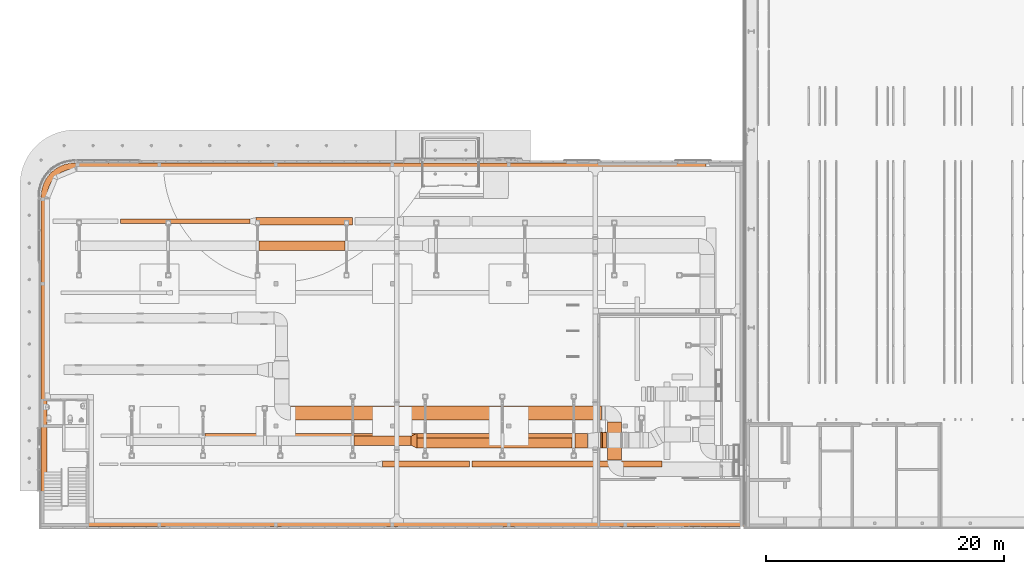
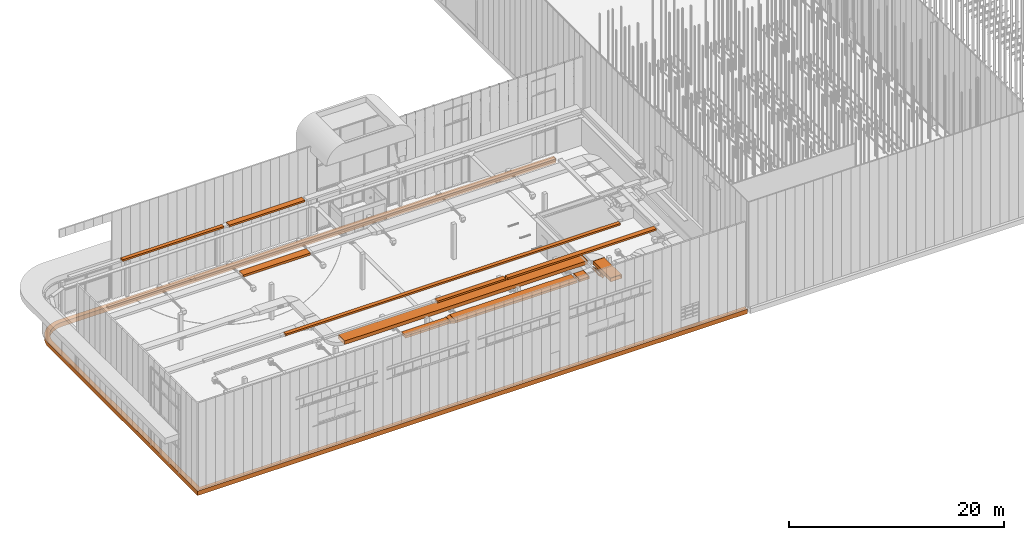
# One storey, part 298 of 302: 14 proxies.
"""IFC2X3 building model written with IfcOpenShell, lengths in metres."""

from ifc_helpers import new_model, entity, si_unit, converted_unit, derived_unit, direction, frame, origin, place, context, subcontext, project, spatial, face_set, faceted_brep, surface_model, type_object, element, save


model = new_model("IFC2X3")

# Units and contexts
model_context = context("Model", 3, precision=1e-05, world=origin(), true_north=direction((6.12303176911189e-17, 1.0)))
body_context = subcontext(model_context, "Body", "Model", "MODEL_VIEW")
ifc_project = project(units=[si_unit("LENGTHUNIT", "METRE"), si_unit("AREAUNIT", "SQUARE_METRE"), si_unit("VOLUMEUNIT", "CUBIC_METRE"), converted_unit("PLANEANGLEUNIT", "DEGREE", entity("IfcRatioMeasure", 0.0174532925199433), si_unit("PLANEANGLEUNIT", "RADIAN"), dimensions=[0, 0, 0, 0, 0, 0, 0]), si_unit("MASSUNIT", "GRAM", prefix="KILO"), derived_unit("MASSDENSITYUNIT", [(si_unit("MASSUNIT", "GRAM", prefix="KILO"), 1), (si_unit("LENGTHUNIT", "METRE"), -3)]), derived_unit("MOMENTOFINERTIAUNIT", [(si_unit("LENGTHUNIT", "METRE"), 4)]), si_unit("TIMEUNIT", "SECOND"), si_unit("FREQUENCYUNIT", "HERTZ"), si_unit("THERMODYNAMICTEMPERATUREUNIT", "DEGREE_CELSIUS"), derived_unit("THERMALTRANSMITTANCEUNIT", [(si_unit("MASSUNIT", "GRAM", prefix="KILO"), 1), (si_unit("THERMODYNAMICTEMPERATUREUNIT", "KELVIN"), -1), (si_unit("TIMEUNIT", "SECOND"), -3)]), derived_unit("VOLUMETRICFLOWRATEUNIT", [(si_unit("LENGTHUNIT", "METRE"), 3), (si_unit("TIMEUNIT", "SECOND"), -1)]), si_unit("ELECTRICCURRENTUNIT", "AMPERE"), si_unit("ELECTRICVOLTAGEUNIT", "VOLT"), si_unit("POWERUNIT", "WATT"), si_unit("FORCEUNIT", "NEWTON", prefix="KILO"), si_unit("ILLUMINANCEUNIT", "LUX"), si_unit("LUMINOUSFLUXUNIT", "LUMEN"), si_unit("LUMINOUSINTENSITYUNIT", "CANDELA"), derived_unit("USERDEFINED", [(si_unit("MASSUNIT", "GRAM", prefix="KILO"), -1), (si_unit("LENGTHUNIT", "METRE"), -2), (si_unit("TIMEUNIT", "SECOND"), 3), (si_unit("LUMINOUSFLUXUNIT", "LUMEN"), 1)]), derived_unit("LINEARVELOCITYUNIT", [(si_unit("LENGTHUNIT", "METRE"), 1), (si_unit("TIMEUNIT", "SECOND"), -1)]), si_unit("PRESSUREUNIT", "PASCAL"), derived_unit("USERDEFINED", [(si_unit("LENGTHUNIT", "METRE"), -2), (si_unit("MASSUNIT", "GRAM", prefix="KILO"), 1), (si_unit("TIMEUNIT", "SECOND"), -2)]), derived_unit("LINEARFORCEUNIT", [(si_unit("MASSUNIT", "GRAM", prefix="KILO"), 1), (si_unit("LENGTHUNIT", "METRE"), 1), (si_unit("TIMEUNIT", "SECOND"), -2), (si_unit("LENGTHUNIT", "METRE"), -1)]), derived_unit("PLANARFORCEUNIT", [(si_unit("MASSUNIT", "GRAM", prefix="KILO"), 1), (si_unit("LENGTHUNIT", "METRE"), 1), (si_unit("TIMEUNIT", "SECOND"), -2), (si_unit("LENGTHUNIT", "METRE"), -2)])], contexts=[model_context])

# Site, building, storey
site_placement = place(None, origin())
site = spatial("IfcSite", under=ifc_project, at=site_placement, Name="Default", CompositionType="ELEMENT")
building_placement = place(site_placement, origin())
building = spatial("IfcBuilding", under=site, at=building_placement, CompositionType="ELEMENT")
storey_placement = place(building_placement, frame((0.0, 0.0, -1.3)))
storey = spatial("IfcBuildingStorey", under=building, at=storey_placement, Name="00_EG", CompositionType="ELEMENT", Elevation=-1.3)

# Proxies
building_element_proxy_type_1 = type_object("IfcBuildingElementProxyType", Name="Plattenkante:Streifenfundament 500x500", PredefinedType="NOTDEFINED")
proxy_1_placement = place(storey_placement, frame((-266.661706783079, 14.998088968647, 0.469999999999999)))
element("IfcBuildingElementProxy", 1, at=proxy_1_placement, inside=storey, type_object=building_element_proxy_type_1, Name="Plattenkante:Streifenfundament 500x500", ObjectType="Plattenkante:Streifenfundament 500x500", context=body_context, shape_type="Brep", body=[
    faceted_brep([(59.0715952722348, 0.0, 0.5), (59.0715952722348, 0.0, 0.0), (59.0715952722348, 0.500000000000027, 0.0), (59.0715952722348, 0.500000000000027, 0.5), (0.501595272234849, 0.500000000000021, 0.0), (0.501595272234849, 0.500000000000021, 0.5), (0.501595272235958, 27.7399999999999, 0.5), (0.507506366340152, 27.9055069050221, 0.5), (0.525209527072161, 28.0701704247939, 0.5), (0.554614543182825, 28.2331514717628, 0.5), (0.595571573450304, 28.393619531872, 0.5), (0.64787191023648, 28.5507568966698, 0.5), (0.711249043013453, 28.7037628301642, 0.5), (0.785380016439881, 28.8518576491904, 0.5), (0.869887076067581, 28.9942866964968, 0.5), (0.964339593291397, 29.1303241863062, 0.5), (1.06825625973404, 29.2592769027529, 0.5), (1.18110753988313, 29.3804877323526, 0.5), (1.30231836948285, 29.4933390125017, 0.5), (1.43127108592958, 29.5972556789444, 0.5), (1.56730857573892, 29.6917081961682, 0.5), (1.70973762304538, 29.7762152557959, 0.5), (1.85783244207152, 29.8503462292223, 0.5), (2.01083837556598, 29.9137233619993, 0.5), (2.16797574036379, 29.9660236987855, 0.5), (2.32844380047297, 30.0069807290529, 0.5), (2.49142484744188, 30.0363857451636, 0.5), (2.65608836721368, 30.0540889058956, 0.5), (2.82159527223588, 30.0599999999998, 0.5), (55.8749660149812, 30.06, 0.5), (55.8749660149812, 30.56, 0.5), (2.82159527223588, 30.5599999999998, 0.5), (2.63715844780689, 30.5539621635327, 0.5), (2.45351141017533, 30.535874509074, 0.5), (2.2714405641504, 30.5058144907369, 0.5), (2.09172556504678, 30.463910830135, 0.5), (1.91513598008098, 30.410342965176, 0.5), (1.74242799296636, 30.3453402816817, 0.5), (1.57434116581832, 30.269181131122, 0.5), (1.41159527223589, 30.182191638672, 0.5), (1.25488721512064, 30.084744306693, 0.5), (1.1048880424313, 29.9772564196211, 0.5), (0.962240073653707, 29.8601882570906, 0.5), (0.82755414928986, 29.7340411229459, 0.5), (0.701407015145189, 29.599355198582, 0.5), (0.584338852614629, 29.4567072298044, 0.5), (0.476850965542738, 29.3067080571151, 0.5), (0.379403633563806, 29.1499999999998, 0.5), (0.292414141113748, 28.9872541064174, 0.5), (0.216254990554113, 28.8191672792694, 0.5), (0.151252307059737, 28.6464592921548, 0.5), (0.097684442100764, 28.469869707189, 0.5), (0.0557807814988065, 28.2901547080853, 0.5), (0.0257207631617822, 28.1080838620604, 0.5), (0.00763310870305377, 27.9244368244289, 0.5), (0.00159527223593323, 27.7399999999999, 0.5), (0.00159527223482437, 0.0, 0.5), (0.501595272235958, 27.7399999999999, 0.0), (2.32844380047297, 30.0069807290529, 0.0), (2.49142484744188, 30.0363857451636, 0.0), (2.65608836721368, 30.0540889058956, 0.0), (2.82159527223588, 30.0599999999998, 0.0), (2.16797574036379, 29.9660236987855, 0.0), (2.01083837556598, 29.9137233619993, 0.0), (1.85783244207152, 29.8503462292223, 0.0), (1.43127108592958, 29.5972556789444, 0.0), (1.56730857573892, 29.6917081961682, 0.0), (1.70973762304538, 29.7762152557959, 0.0), (1.30231836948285, 29.4933390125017, 0.0), (1.18110753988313, 29.3804877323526, 0.0), (0.964339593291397, 29.1303241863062, 0.0), (1.06825625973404, 29.2592769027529, 0.0), (0.711249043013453, 28.7037628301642, 0.0), (0.785380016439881, 28.8518576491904, 0.0), (0.869887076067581, 28.9942866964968, 0.0), (0.554614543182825, 28.2331514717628, 0.0), (0.595571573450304, 28.393619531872, 0.0), (0.64787191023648, 28.5507568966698, 0.0), (0.507506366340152, 27.9055069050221, 0.0), (0.525209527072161, 28.0701704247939, 0.0), (55.8749660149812, 30.06, 0.0), (55.8749660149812, 30.56, 0.0), (0.00159527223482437, 0.0, 0.0), (0.00159527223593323, 27.7399999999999, 0.0), (0.0257207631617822, 28.1080838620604, 0.0), (0.097684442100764, 28.469869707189, 0.0), (0.216254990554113, 28.8191672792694, 0.0), (0.379403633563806, 29.1499999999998, 0.0), (0.584338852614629, 29.4567072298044, 0.0), (0.82755414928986, 29.7340411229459, 0.0), (1.1048880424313, 29.9772564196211, 0.0), (1.41159527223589, 30.182191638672, 0.0), (1.74242799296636, 30.3453402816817, 0.0), (2.09172556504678, 30.463910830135, 0.0), (2.45351141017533, 30.535874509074, 0.0), (2.82159527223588, 30.56, 0.0)], [[[0, 1, 2, 3]], [[4, 5, 3, 2]], [[5, 6, 7, 8, 9, 10, 11, 12, 13, 14, 15, 16, 17, 18, 19, 20, 21, 22, 23, 24, 25, 26, 27, 28, 29, 30, 31, 32, 33, 34, 35, 36, 37, 38, 39, 40, 41, 42, 43, 44, 45, 46, 47, 48, 49, 50, 51, 52, 53, 54, 55, 56, 0, 3]], [[57, 6, 5, 4]], [[58, 59, 26, 25]], [[59, 60, 27, 26]], [[60, 61, 28, 27]], [[62, 58, 25, 24]], [[63, 23, 22, 64]], [[62, 24, 23, 63]], [[65, 66, 20, 19]], [[66, 67, 21, 20]], [[64, 22, 21, 67]], [[68, 65, 19, 18]], [[18, 17, 69, 68]], [[16, 15, 70, 71]], [[13, 12, 72, 73]], [[14, 13, 73, 74]], [[15, 14, 74, 70]], [[10, 9, 75, 76]], [[11, 10, 76, 77]], [[7, 6, 57, 78]], [[8, 7, 78, 79]], [[9, 8, 79, 75]], [[12, 11, 77, 72]], [[17, 16, 71, 69]], [[29, 80, 81, 30]], [[80, 29, 28, 61]], [[81, 80, 61, 60, 59, 58, 62, 63, 64, 67, 66, 65, 68, 69, 71, 70, 74, 73, 72, 77, 76, 75, 79, 78, 57, 4, 2, 1, 82, 83, 84, 85, 86, 87, 88, 89, 90, 91, 92, 93, 94, 95]], [[30, 81, 95, 31]], [[94, 93, 34]], [[33, 94, 34]], [[94, 32, 95]], [[93, 35, 34]], [[36, 93, 92]], [[90, 40, 91]], [[92, 91, 38]], [[42, 90, 89]], [[93, 36, 35]], [[32, 31, 95]], [[36, 92, 37]], [[33, 32, 94]], [[38, 91, 39]], [[91, 40, 39]], [[90, 41, 40]], [[37, 92, 38]], [[41, 90, 42]], [[89, 43, 42]], [[89, 44, 43]], [[44, 89, 88]], [[45, 44, 88]], [[45, 88, 46]], [[46, 88, 87]], [[52, 85, 84]], [[50, 86, 85]], [[48, 87, 86]], [[54, 84, 83]], [[46, 87, 47]], [[48, 47, 87]], [[86, 49, 48]], [[50, 49, 86]], [[85, 51, 50]], [[51, 85, 52]], [[53, 52, 84]], [[54, 53, 84]], [[83, 55, 54]], [[55, 83, 82, 56]], [[56, 82, 1, 0]]]),
])
building_element_proxy_type_2 = type_object("IfcBuildingElementProxyType", Name="Straight:Vorgabe", PredefinedType="NOTDEFINED")
proxy_2_placement = place(storey_placement, frame((-245.696525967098, 23.9320449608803, 4.82460000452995)))
element("IfcBuildingElementProxy", 2, at=proxy_2_placement, inside=storey, type_object=building_element_proxy_type_2, Name="Straight:Vorgabe", ObjectType="Straight:Vorgabe", context=body_context, shape_type="SurfaceModel", body=[
    surface_model("IfcFaceBasedSurfaceModel", [(26.1088517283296, 1.22540005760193, 0.425399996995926), (1.19732375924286e-06, 1.22540005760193, 0.425399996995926), (1.19732375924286e-06, 0.0254000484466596, 0.425399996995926), (26.1088517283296, 0.0254000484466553, 0.425399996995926), (1.19732375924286e-06, 0.0254000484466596, 0.0253999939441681), (26.1088517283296, 0.0254000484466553, 0.0253999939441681), (1.19732375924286e-06, 1.22540005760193, 0.0253999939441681), (26.1088517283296, 1.22540005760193, 0.0253999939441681), (26.1088507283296, 1.25080010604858, 0.0), (26.1088507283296, 1.25080010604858, 0.450799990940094), (26.1088507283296, 0.0, 0.450799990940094), (26.1088507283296, 0.0, 0.0), (1.19732375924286e-06, 0.0, 0.0), (1.19732375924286e-06, 0.0, 0.450799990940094), (1.19732375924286e-06, 1.25080010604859, 0.450799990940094), (1.19732375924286e-06, 1.25080010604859, 0.0)], [face_set([[[0, 1, 2]], [[2, 3, 0]], [[3, 2, 4]], [[4, 5, 3]], [[5, 4, 6]], [[6, 7, 5]], [[7, 6, 1]], [[1, 0, 7]], [[8, 7, 0]], [[0, 9, 8]], [[9, 0, 3]], [[3, 10, 9]], [[10, 3, 5]], [[5, 11, 10]], [[11, 5, 7]], [[7, 8, 11]], [[12, 4, 2]], [[2, 13, 12]], [[13, 2, 1]], [[1, 14, 13]], [[14, 1, 6]], [[6, 15, 14]], [[15, 6, 4]], [[4, 12, 15]]])]),
])
building_element_proxy_type_3 = type_object("IfcBuildingElementProxyType", Name="Straight:Vorgabe", PredefinedType="NOTDEFINED")
proxy_3_placement = place(storey_placement, frame((-219.098074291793, 20.5782242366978, 4.68460000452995)))
element("IfcBuildingElementProxy", 3, at=proxy_3_placement, inside=storey, type_object=building_element_proxy_type_3, Name="Straight:Vorgabe", ObjectType="Straight:Vorgabe", context=body_context, shape_type="SurfaceModel", body=[
    surface_model("IfcFaceBasedSurfaceModel", [(0.0254000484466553, 3.22422077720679, 0.425399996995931), (0.0254000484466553, 1.38168704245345e-07, 0.425399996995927), (1.22540005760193, 1.38168704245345e-07, 0.425399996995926), (1.22540005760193, 3.22422077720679, 0.42539999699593), (1.22540005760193, 1.38168704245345e-07, 0.0253999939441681), (1.22540005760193, 3.22422077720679, 0.0253999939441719), (0.0254000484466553, 1.38168704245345e-07, 0.0253999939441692), (0.0254000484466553, 3.22422077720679, 0.025399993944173), (0.0, 3.22421977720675, 0.0), (0.0, 3.22421977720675, 0.450799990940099), (1.25080010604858, 3.22421977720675, 0.450799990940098), (1.25080010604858, 3.22421977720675, 0.0), (1.25080010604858, 1.01020849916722e-06, 0.0), (1.25080010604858, 1.01020849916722e-06, 0.450799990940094), (0.0, 1.01020849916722e-06, 0.450799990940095), (0.0, 1.01020849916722e-06, 0.0)], [face_set([[[0, 1, 2]], [[2, 3, 0]], [[3, 2, 4]], [[4, 5, 3]], [[5, 4, 6]], [[6, 7, 5]], [[7, 6, 1]], [[1, 0, 7]], [[8, 7, 0]], [[0, 9, 8]], [[9, 0, 3]], [[3, 10, 9]], [[10, 3, 5]], [[5, 11, 10]], [[11, 5, 7]], [[7, 8, 11]], [[12, 4, 2]], [[2, 13, 12]], [[13, 2, 1]], [[1, 14, 13]], [[14, 1, 6]], [[6, 15, 14]], [[15, 6, 4]], [[4, 12, 15]]])]),
])
building_element_proxy_type_4 = type_object("IfcBuildingElementProxyType", Name="Transition:Vorgabe", PredefinedType="NOTDEFINED")
proxy_4_placement = place(storey_placement, frame((-235.584940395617, 21.5964154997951, 4.97460000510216)))
element("IfcBuildingElementProxy", 4, at=proxy_4_placement, inside=storey, type_object=building_element_proxy_type_4, Name="Transition:Vorgabe", ObjectType="Transition:Vorgabe", context=body_context, shape_type="SurfaceModel", body=[
    surface_model("IfcFaceBasedSurfaceModel", [(0.450000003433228, 1.22540005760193, 0.275399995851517), (0.0500000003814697, 1.02540005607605, 0.275399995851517), (0.0500000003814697, 0.225400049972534, 0.275399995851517), (0.450000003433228, 0.0254000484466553, 0.275399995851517), (0.450000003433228, 0.0254000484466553, 0.0253999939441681), (0.0500000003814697, 0.225400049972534, 0.0253999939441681), (0.0500000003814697, 1.02540005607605, 0.0253999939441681), (0.450000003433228, 1.22540005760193, 0.0253999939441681), (0.500000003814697, 0.0254000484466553, 0.275399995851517), (0.500000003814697, 1.22540005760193, 0.275399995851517), (0.0, 1.02540005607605, 0.275399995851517), (0.0, 0.225400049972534, 0.275399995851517), (0.500000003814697, 1.22540005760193, 0.0253999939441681), (0.500000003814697, 0.0254000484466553, 0.0253999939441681), (0.0, 0.225400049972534, 0.0253999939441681), (0.0, 1.02540005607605, 0.0253999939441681), (0.499999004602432, 1.25080010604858, 0.0), (0.499999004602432, 1.25080010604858, 0.300799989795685), (0.499999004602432, 0.0, 0.300799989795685), (0.499999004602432, 0.0, 0.0), (1.01737976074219e-06, 0.200000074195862, 0.0), (1.01737976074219e-06, 0.200000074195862, 0.300799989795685), (1.01737976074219e-06, 1.05080003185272, 0.300799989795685), (1.01737976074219e-06, 1.05080003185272, 0.0)], [face_set([[[0, 1, 2]], [[2, 3, 0]], [[4, 5, 6]], [[6, 7, 4]], [[3, 2, 5]], [[5, 4, 3]], [[7, 6, 1]], [[1, 0, 7]], [[0, 3, 8]], [[8, 9, 0]], [[1, 10, 11]], [[11, 2, 1]], [[12, 13, 4]], [[4, 7, 12]], [[5, 14, 15]], [[15, 6, 5]], [[3, 4, 13]], [[13, 8, 3]], [[2, 11, 14]], [[14, 5, 2]], [[9, 12, 7]], [[7, 0, 9]], [[6, 15, 10]], [[10, 1, 6]], [[16, 12, 9]], [[9, 17, 16]], [[17, 9, 8]], [[8, 18, 17]], [[18, 8, 13]], [[13, 19, 18]], [[19, 13, 12]], [[12, 16, 19]], [[20, 14, 11]], [[11, 21, 20]], [[21, 11, 10]], [[10, 22, 21]], [[22, 10, 15]], [[15, 23, 22]], [[23, 15, 14]], [[14, 20, 23]]])]),
])
building_element_proxy_type_5 = type_object("IfcBuildingElementProxyType", Name="Straight:Vorgabe", PredefinedType="NOTDEFINED")
proxy_5_placement = place(storey_placement, frame((-235.084941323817, 21.5964154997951, 4.97460000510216)))
element("IfcBuildingElementProxy", 5, at=proxy_5_placement, inside=storey, type_object=building_element_proxy_type_5, Name="Straight:Vorgabe", ObjectType="Straight:Vorgabe", context=body_context, shape_type="SurfaceModel", body=[
    surface_model("IfcFaceBasedSurfaceModel", [(13.0547857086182, 1.22540005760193, 0.275399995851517), (0.0, 1.22540005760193, 0.275399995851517), (0.0, 0.0254000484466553, 0.275399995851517), (13.0547857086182, 0.0254000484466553, 0.275399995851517), (0.0, 0.0254000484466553, 0.0253999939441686), (13.0547857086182, 0.0254000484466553, 0.0253999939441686), (0.0, 1.22540005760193, 0.0253999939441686), (13.0547857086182, 1.22540005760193, 0.0253999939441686), (13.0547847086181, 1.25080010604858, 0.0), (13.0547847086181, 1.25080010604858, 0.300799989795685), (13.0547847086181, 0.0, 0.300799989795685), (13.0547847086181, 0.0, 0.0), (1.1627197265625e-06, 0.0, 0.0), (1.1627197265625e-06, 0.0, 0.300799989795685), (1.1627197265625e-06, 1.25080010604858, 0.300799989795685), (1.1627197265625e-06, 1.25080010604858, 0.0)], [face_set([[[0, 1, 2]], [[2, 3, 0]], [[3, 2, 4]], [[4, 5, 3]], [[5, 4, 6]], [[6, 7, 5]], [[7, 6, 1]], [[1, 0, 7]], [[8, 7, 0]], [[0, 9, 8]], [[9, 0, 3]], [[3, 10, 9]], [[10, 3, 5]], [[5, 11, 10]], [[11, 5, 7]], [[7, 8, 11]], [[12, 4, 2]], [[2, 13, 12]], [[13, 2, 1]], [[1, 14, 13]], [[14, 1, 6]], [[6, 15, 14]], [[15, 6, 4]], [[4, 12, 15]]])]),
])
building_element_proxy_type_6 = type_object("IfcBuildingElementProxyType", Name="Straight:Vorgabe", PredefinedType="NOTDEFINED")
proxy_6_placement = place(storey_placement, frame((-240.353749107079, 21.796415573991, 4.97460000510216)))
element("IfcBuildingElementProxy", 6, at=proxy_6_placement, inside=storey, type_object=building_element_proxy_type_6, Name="Straight:Vorgabe", ObjectType="Straight:Vorgabe", context=body_context, shape_type="SurfaceModel", body=[
    surface_model("IfcFaceBasedSurfaceModel", [(4.76880871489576, 0.825399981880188, 0.275399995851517), (8.83393648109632e-08, 0.825399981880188, 0.275399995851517), (8.83393648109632e-08, 0.0253999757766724, 0.275399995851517), (4.76880871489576, 0.0253999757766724, 0.275399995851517), (8.83393648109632e-08, 0.0253999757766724, 0.0253999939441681), (4.76880871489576, 0.0253999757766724, 0.0253999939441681), (8.83393648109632e-08, 0.825399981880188, 0.0253999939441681), (4.76880871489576, 0.825399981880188, 0.0253999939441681), (4.76880771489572, 0.85079995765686, 0.0), (4.76880771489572, 0.85079995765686, 0.300799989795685), (4.76880771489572, 0.0, 0.300799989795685), (4.76880771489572, 0.0, 0.0), (9.60379159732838e-07, 0.0, 0.0), (9.60379159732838e-07, 0.0, 0.300799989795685), (9.60379159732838e-07, 0.85079995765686, 0.300799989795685), (9.60379159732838e-07, 0.85079995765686, 0.0)], [face_set([[[0, 1, 2]], [[2, 3, 0]], [[3, 2, 4]], [[4, 5, 3]], [[5, 4, 6]], [[6, 7, 5]], [[7, 6, 1]], [[1, 0, 7]], [[8, 7, 0]], [[0, 9, 8]], [[9, 0, 3]], [[3, 10, 9]], [[10, 3, 5]], [[5, 11, 10]], [[11, 5, 7]], [[7, 8, 11]], [[12, 4, 2]], [[2, 13, 12]], [[13, 2, 1]], [[1, 14, 13]], [[14, 1, 6]], [[6, 15, 14]], [[15, 6, 4]], [[4, 12, 15]]])]),
])
building_element_proxy_type_7 = type_object("IfcBuildingElementProxyType", Name="Straight:Vorgabe", PredefinedType="NOTDEFINED")
proxy_7_placement = place(storey_placement, frame((-221.780155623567, 21.5964154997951, 4.97460000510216)))
element("IfcBuildingElementProxy", 7, at=proxy_7_placement, inside=storey, type_object=building_element_proxy_type_7, Name="Straight:Vorgabe", ObjectType="Straight:Vorgabe", context=body_context, shape_type="SurfaceModel", body=[
    surface_model("IfcFaceBasedSurfaceModel", [(1.05032739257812, 1.22540005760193, 0.275399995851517), (6.29424748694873e-09, 1.22540005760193, 0.275399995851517), (6.29424748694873e-09, 0.0254000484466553, 0.275399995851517), (1.05032739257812, 0.0254000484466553, 0.275399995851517), (6.29424748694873e-09, 0.0254000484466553, 0.0253999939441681), (1.05032739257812, 0.0254000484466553, 0.0253999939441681), (6.29424748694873e-09, 1.22540005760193, 0.0253999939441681), (1.05032739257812, 1.22540005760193, 0.0253999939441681), (1.05032639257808, 1.25080010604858, 0.0), (1.05032639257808, 1.25080010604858, 0.300799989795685), (1.05032639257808, 0.0, 0.300799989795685), (1.05032639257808, 0.0, 0.0), (9.5100402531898e-07, 0.0, 0.0), (9.5100402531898e-07, 0.0, 0.300799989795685), (9.5100402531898e-07, 1.25080010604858, 0.300799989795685), (9.5100402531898e-07, 1.25080010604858, 0.0)], [face_set([[[0, 1, 2]], [[2, 3, 0]], [[3, 2, 4]], [[4, 5, 3]], [[5, 4, 6]], [[6, 7, 5]], [[7, 6, 1]], [[1, 0, 7]], [[8, 7, 0]], [[0, 9, 8]], [[9, 0, 3]], [[3, 10, 9]], [[10, 3, 5]], [[5, 11, 10]], [[11, 5, 7]], [[7, 8, 11]], [[12, 4, 2]], [[2, 13, 12]], [[13, 2, 1]], [[1, 14, 13]], [[14, 1, 6]], [[6, 15, 14]], [[15, 6, 4]], [[4, 12, 15]]])]),
])
building_element_proxy_type_8 = type_object("IfcBuildingElementProxyType", Name="Straight:Vorgabe", PredefinedType="NOTDEFINED")
proxy_8_placement = place(storey_placement, frame((-219.673187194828, 21.5969453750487, 4.60379831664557)))
element("IfcBuildingElementProxy", 8, at=proxy_8_placement, inside=storey, type_object=building_element_proxy_type_8, Name="Straight:Vorgabe", ObjectType="Straight:Vorgabe", context=body_context, shape_type="SurfaceModel", body=[
    surface_model("IfcFaceBasedSurfaceModel", [(0.15938187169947, 0.0254000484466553, 0.519442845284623), (0.519442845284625, 0.0254000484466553, 0.159381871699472), (0.519442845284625, 1.32540005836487, 0.159381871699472), (0.15938187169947, 1.32540005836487, 0.519442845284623), (0.378021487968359, 1.32540005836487, 0.0179605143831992), (0.0179605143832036, 1.32540005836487, 0.37802148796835), (0.378021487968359, 0.0254000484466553, 0.0179605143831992), (0.0179605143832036, 0.0254000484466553, 0.37802148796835), (7.07106795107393e-07, 0.0, 0.360060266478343), (0.177343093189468, 0.0, 0.537402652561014), (0.177343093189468, 1.35080010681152, 0.537402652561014), (7.07106795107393e-07, 1.35080010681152, 0.360060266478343), (0.360060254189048, 1.35080010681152, 7.1939612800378e-07), (0.537402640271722, 1.35080010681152, 0.177343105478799), (0.537402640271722, 0.0, 0.177343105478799), (0.360060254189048, 0.0, 7.1939612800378e-07)], [face_set([[[0, 1, 2]], [[2, 3, 0]], [[3, 2, 4]], [[4, 5, 3]], [[5, 4, 6]], [[6, 7, 5]], [[7, 6, 1]], [[1, 0, 7]], [[8, 7, 0]], [[0, 9, 8]], [[9, 0, 3]], [[3, 10, 9]], [[10, 3, 5]], [[5, 11, 10]], [[11, 5, 7]], [[7, 8, 11]], [[12, 4, 2]], [[2, 13, 12]], [[13, 2, 1]], [[1, 14, 13]], [[14, 1, 6]], [[6, 15, 14]], [[15, 6, 4]], [[4, 12, 15]]])]),
])
building_element_proxy_type_9 = type_object("IfcBuildingElementProxyType", Name="Straight:Vorgabe", PredefinedType="NOTDEFINED")
proxy_9_placement = place(storey_placement, frame((-248.358293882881, 38.1828258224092, 4.75960000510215)))
element("IfcBuildingElementProxy", 9, at=proxy_9_placement, inside=storey, type_object=building_element_proxy_type_9, Name="Straight:Vorgabe", ObjectType="Straight:Vorgabe", context=body_context, shape_type="SurfaceModel", body=[
    surface_model("IfcFaceBasedSurfaceModel", [(7.22883957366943, 0.825399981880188, 0.275399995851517), (0.0, 0.825399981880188, 0.275399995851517), (0.0, 0.0253999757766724, 0.275399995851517), (7.22883957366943, 0.0253999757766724, 0.275399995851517), (0.0, 0.0253999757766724, 0.0253999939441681), (7.22883957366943, 0.0253999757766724, 0.0253999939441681), (0.0, 0.825399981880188, 0.0253999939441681), (7.22883957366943, 0.825399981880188, 0.0253999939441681), (7.2288385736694, 0.850799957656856, 0.0), (7.2288385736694, 0.850799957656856, 0.300799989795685), (7.2288385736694, 0.0, 0.300799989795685), (7.2288385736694, 0.0, 0.0), (1.1627197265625e-06, 0.0, 0.0), (1.1627197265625e-06, 0.0, 0.300799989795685), (1.1627197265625e-06, 0.850799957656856, 0.300799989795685), (1.1627197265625e-06, 0.850799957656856, 0.0)], [face_set([[[0, 1, 2]], [[2, 3, 0]], [[3, 2, 4]], [[4, 5, 3]], [[5, 4, 6]], [[6, 7, 5]], [[7, 6, 1]], [[1, 0, 7]], [[8, 7, 0]], [[0, 9, 8]], [[9, 0, 3]], [[3, 10, 9]], [[10, 3, 5]], [[5, 11, 10]], [[11, 5, 7]], [[7, 8, 11]], [[12, 4, 2]], [[2, 13, 12]], [[13, 2, 1]], [[1, 14, 13]], [[14, 1, 6]], [[6, 15, 14]], [[15, 6, 4]], [[4, 12, 15]]])]),
])
building_element_proxy_type_10 = type_object("IfcBuildingElementProxyType", Name="Straight:Vorgabe", PredefinedType="NOTDEFINED")
proxy_10_placement = place(storey_placement, frame((-248.617144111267, 40.3346826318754, 9.25459999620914)))
element("IfcBuildingElementProxy", 10, at=proxy_10_placement, inside=storey, type_object=building_element_proxy_type_10, Name="Straight:Vorgabe", ObjectType="Straight:Vorgabe", context=body_context, shape_type="SurfaceModel", body=[
    surface_model("IfcFaceBasedSurfaceModel", [(8.12381459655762, 0.625399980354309, 0.225400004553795), (0.0, 0.625399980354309, 0.225400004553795), (0.0, 0.0253999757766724, 0.225400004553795), (8.12381459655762, 0.0253999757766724, 0.225400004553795), (0.0, 0.0253999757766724, 0.025400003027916), (8.12381459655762, 0.0253999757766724, 0.025400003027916), (0.0, 0.625399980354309, 0.025400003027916), (8.12381459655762, 0.625399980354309, 0.025400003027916), (8.12381359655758, 0.650799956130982, 0.0), (8.12381359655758, 0.650799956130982, 0.250800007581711), (8.12381359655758, 0.0, 0.250800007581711), (8.12381359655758, 0.0, 0.0), (1.1627197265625e-06, 0.0, 0.0), (1.1627197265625e-06, 0.0, 0.250800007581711), (1.1627197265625e-06, 0.650799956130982, 0.250800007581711), (1.1627197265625e-06, 0.650799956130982, 0.0)], [face_set([[[0, 1, 2]], [[2, 3, 0]], [[3, 2, 4]], [[4, 5, 3]], [[5, 4, 6]], [[6, 7, 5]], [[7, 6, 1]], [[1, 0, 7]], [[8, 7, 0]], [[0, 9, 8]], [[9, 0, 3]], [[3, 10, 9]], [[10, 3, 5]], [[5, 11, 10]], [[11, 5, 7]], [[7, 8, 11]], [[12, 4, 2]], [[2, 13, 12]], [[13, 2, 1]], [[1, 14, 13]], [[14, 1, 6]], [[6, 15, 14]], [[15, 6, 4]], [[4, 12, 15]]])]),
])
building_element_proxy_type_11 = type_object("IfcBuildingElementProxyType", Name="Straight:Vorgabe", PredefinedType="NOTDEFINED")
proxy_11_placement = place(storey_placement, frame((-259.992263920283, 40.4346826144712, 9.25459999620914)))
element("IfcBuildingElementProxy", 11, at=proxy_11_placement, inside=storey, type_object=building_element_proxy_type_11, Name="Straight:Vorgabe", ObjectType="Straight:Vorgabe", context=body_context, shape_type="SurfaceModel", body=[
    surface_model("IfcFaceBasedSurfaceModel", [(10.8751201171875, 0.425399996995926, 0.225400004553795), (2.01416023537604e-07, 0.425399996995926, 0.225400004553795), (2.01416023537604e-07, 0.0253999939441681, 0.225400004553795), (10.8751201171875, 0.0253999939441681, 0.225400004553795), (2.01416023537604e-07, 0.0253999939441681, 0.025400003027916), (10.8751201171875, 0.0253999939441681, 0.025400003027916), (2.01416023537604e-07, 0.425399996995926, 0.025400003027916), (10.8751201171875, 0.425399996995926, 0.025400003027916), (10.8751191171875, 0.450799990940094, 0.0), (10.8751191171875, 0.450799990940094, 0.250800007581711), (10.8751191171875, 0.0, 0.250800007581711), (10.8751191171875, 0.0, 0.0), (1.3641357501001e-06, 0.0, 0.0), (1.3641357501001e-06, 0.0, 0.250800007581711), (1.3641357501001e-06, 0.450799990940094, 0.250800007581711), (1.3641357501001e-06, 0.450799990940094, 0.0)], [face_set([[[0, 1, 2]], [[2, 3, 0]], [[3, 2, 4]], [[4, 5, 3]], [[5, 4, 6]], [[6, 7, 5]], [[7, 6, 1]], [[1, 0, 7]], [[8, 7, 0]], [[0, 9, 8]], [[9, 0, 3]], [[3, 10, 9]], [[10, 3, 5]], [[5, 11, 10]], [[11, 5, 7]], [[7, 8, 11]], [[12, 4, 2]], [[2, 13, 12]], [[13, 2, 1]], [[1, 14, 13]], [[14, 1, 6]], [[6, 15, 14]], [[15, 6, 4]], [[4, 12, 15]]])]),
])
building_element_proxy_type_12 = type_object("IfcBuildingElementProxyType", Name="Straight:Vorgabe", PredefinedType="NOTDEFINED")
proxy_12_placement = place(storey_placement, frame((-237.994481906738, 19.9778096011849, 9.25459999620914)))
element("IfcBuildingElementProxy", 12, at=proxy_12_placement, inside=storey, type_object=building_element_proxy_type_12, Name="Straight:Vorgabe", ObjectType="Straight:Vorgabe", context=body_context, shape_type="SurfaceModel", body=[
    surface_model("IfcFaceBasedSurfaceModel", [(7.34806311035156, 0.525399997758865, 0.225400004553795), (0.0, 0.525399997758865, 0.225400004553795), (0.0, 0.0253999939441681, 0.225400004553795), (7.34806311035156, 0.0253999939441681, 0.225400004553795), (0.0, 0.0253999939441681, 0.025400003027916), (7.34806311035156, 0.0253999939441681, 0.025400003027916), (0.0, 0.525399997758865, 0.025400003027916), (7.34806311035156, 0.525399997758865, 0.025400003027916), (7.34806211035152, 0.550799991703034, 0.0), (7.34806211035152, 0.550799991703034, 0.250800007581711), (7.34806211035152, 0.0, 0.250800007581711), (7.34806211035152, 0.0, 0.0), (1.74407958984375e-06, 0.0, 0.0), (1.74407958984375e-06, 0.0, 0.250800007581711), (1.74407958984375e-06, 0.550799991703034, 0.250800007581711), (1.74407958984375e-06, 0.550799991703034, 0.0)], [face_set([[[0, 1, 2]], [[2, 3, 0]], [[3, 2, 4]], [[4, 5, 3]], [[5, 4, 6]], [[6, 7, 5]], [[7, 6, 1]], [[1, 0, 7]], [[8, 7, 0]], [[0, 9, 8]], [[9, 0, 3]], [[3, 10, 9]], [[10, 3, 5]], [[5, 11, 10]], [[11, 5, 7]], [[7, 8, 11]], [[12, 4, 2]], [[2, 13, 12]], [[13, 2, 1]], [[1, 14, 13]], [[14, 1, 6]], [[6, 15, 14]], [[15, 6, 4]], [[4, 12, 15]]])]),
])
building_element_proxy_type_13 = type_object("IfcBuildingElementProxyType", Name="Straight:Vorgabe", PredefinedType="NOTDEFINED")
proxy_13_placement = place(storey_placement, frame((-230.446419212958, 19.9778096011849, 9.25459999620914)))
element("IfcBuildingElementProxy", 13, at=proxy_13_placement, inside=storey, type_object=building_element_proxy_type_13, Name="Straight:Vorgabe", ObjectType="Straight:Vorgabe", context=body_context, shape_type="SurfaceModel", body=[
    surface_model("IfcFaceBasedSurfaceModel", [(15.973490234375, 0.525399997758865, 0.225400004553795), (1.22070312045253e-07, 0.525399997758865, 0.225400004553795), (1.22070312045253e-07, 0.0253999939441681, 0.225400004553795), (15.973490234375, 0.0253999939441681, 0.225400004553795), (1.22070312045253e-07, 0.0253999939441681, 0.025400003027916), (15.973490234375, 0.0253999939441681, 0.025400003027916), (1.22070312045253e-07, 0.525399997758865, 0.025400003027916), (15.973490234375, 0.525399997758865, 0.025400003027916), (15.973489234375, 0.550799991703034, 0.0), (15.973489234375, 0.550799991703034, 0.250800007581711), (15.973489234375, 0.0, 0.250800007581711), (15.973489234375, 0.0, 0.0), (1.28479003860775e-06, 0.0, 0.0), (1.28479003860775e-06, 0.0, 0.250800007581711), (1.28479003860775e-06, 0.550799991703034, 0.250800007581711), (1.28479003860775e-06, 0.550799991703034, 0.0)], [face_set([[[0, 1, 2]], [[2, 3, 0]], [[3, 2, 4]], [[4, 5, 3]], [[5, 4, 6]], [[6, 7, 5]], [[7, 6, 1]], [[1, 0, 7]], [[8, 7, 0]], [[0, 9, 8]], [[9, 0, 3]], [[3, 10, 9]], [[10, 3, 5]], [[5, 11, 10]], [[11, 5, 7]], [[7, 8, 11]], [[12, 4, 2]], [[2, 13, 12]], [[13, 2, 1]], [[1, 14, 13]], [[14, 1, 6]], [[6, 15, 14]], [[15, 6, 4]], [[4, 12, 15]]])]),
])
building_element_proxy_type_14 = type_object("IfcBuildingElementProxyType", Name="Straight:Vorgabe", PredefinedType="NOTDEFINED")
proxy_14_placement = place(storey_placement, frame((-252.913023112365, 22.4026708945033, 9.25459999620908)))
element("IfcBuildingElementProxy", 14, at=proxy_14_placement, inside=storey, type_object=building_element_proxy_type_14, Name="Straight:Vorgabe", ObjectType="Straight:Vorgabe", context=body_context, shape_type="SurfaceModel", body=[
    surface_model("IfcFaceBasedSurfaceModel", [(35.990801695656, 0.425399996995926, 0.225400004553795), (8.59474343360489e-07, 0.42539999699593, 0.225400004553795), (8.59474343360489e-07, 0.0253999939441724, 0.225400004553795), (35.990801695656, 0.0253999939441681, 0.225400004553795), (8.59474343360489e-07, 0.0253999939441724, 0.025400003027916), (35.990801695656, 0.0253999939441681, 0.025400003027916), (8.59474343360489e-07, 0.42539999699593, 0.025400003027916), (35.990801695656, 0.425399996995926, 0.025400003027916), (35.9908006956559, 0.450799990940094, 0.0), (35.9908006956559, 0.450799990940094, 0.250800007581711), (35.9908006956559, 0.0, 0.250800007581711), (35.9908006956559, 0.0, 0.0), (8.59474343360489e-07, 0.0, 0.0), (8.59474343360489e-07, 0.0, 0.250800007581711), (8.59474343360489e-07, 0.450799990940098, 0.250800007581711), (8.59474343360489e-07, 0.450799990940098, 0.0)], [face_set([[[0, 1, 2]], [[2, 3, 0]], [[3, 2, 4]], [[4, 5, 3]], [[5, 4, 6]], [[6, 7, 5]], [[7, 6, 1]], [[1, 0, 7]], [[8, 7, 0]], [[0, 9, 8]], [[9, 0, 3]], [[3, 10, 9]], [[10, 3, 5]], [[5, 11, 10]], [[11, 5, 7]], [[7, 8, 11]], [[12, 4, 2]], [[2, 13, 12]], [[13, 2, 1]], [[1, 14, 13]], [[14, 1, 6]], [[6, 15, 14]], [[15, 6, 4]], [[4, 12, 15]]])]),
])

save(model, "model.ifc")
